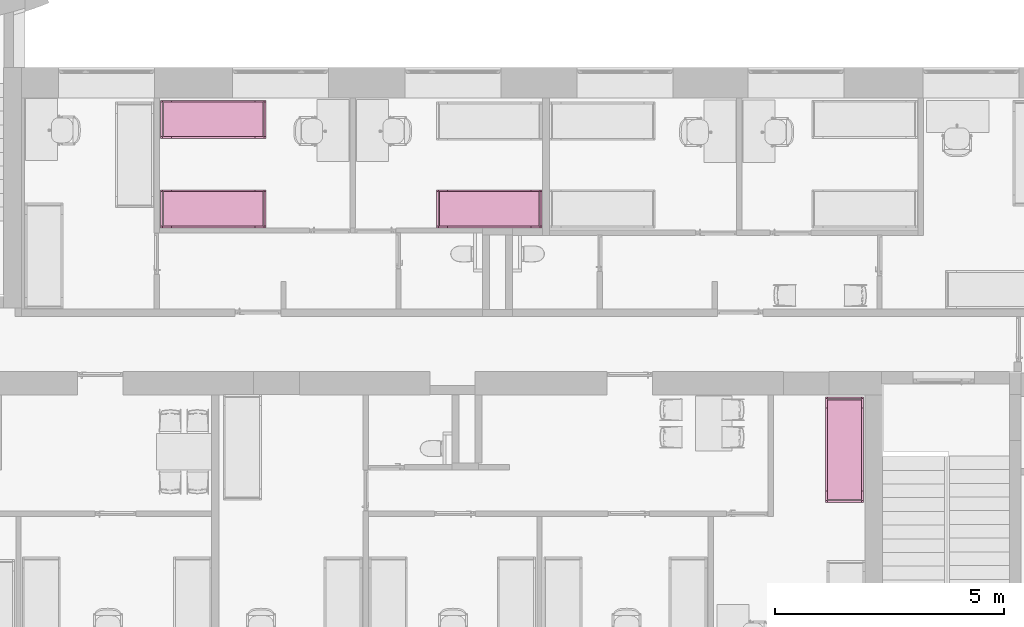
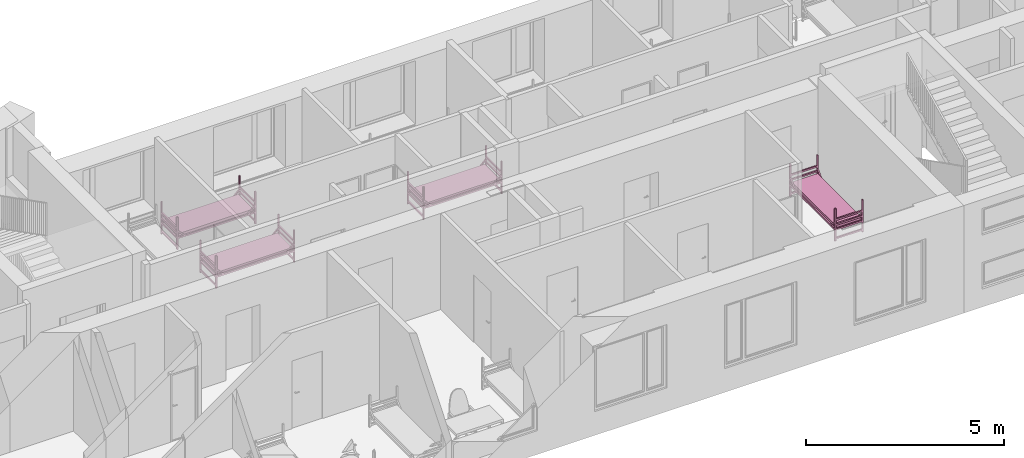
# One storey, part 37 of 48: 4 furnishings.
"""IFC2X3 building model written with IfcOpenShell, lengths in millimetres."""

from ifc_helpers import new_model, entity, si_unit, converted_unit, derived_unit, direction, frame, frame_2d, origin, origin_2d_with_axis, place, context, subcontext, project, spatial, polyline, circle_curve, parameter, trimmed, segment, composite_curve, rectangle, outline, extrude, source, transform, mapped, material, type_object, type_shapes, element, save


model = new_model("IFC2X3")

# Units and contexts
model_context = context("Model", 3, precision=0.01, world=origin(), true_north=direction((6.12303176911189e-17, 1.0)))
body_context = subcontext(model_context, "Body", "Model", "MODEL_VIEW")
ifc_project = project(units=[si_unit("LENGTHUNIT", "METRE", prefix="MILLI"), si_unit("AREAUNIT", "SQUARE_METRE"), si_unit("VOLUMEUNIT", "CUBIC_METRE"), converted_unit("PLANEANGLEUNIT", "DEGREE", entity("IfcRatioMeasure", 0.0174532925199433), si_unit("PLANEANGLEUNIT", "RADIAN"), dimensions=[0, 0, 0, 0, 0, 0, 0]), si_unit("MASSUNIT", "GRAM", prefix="KILO"), derived_unit("MASSDENSITYUNIT", [(si_unit("MASSUNIT", "GRAM", prefix="KILO"), 1), (si_unit("LENGTHUNIT", "METRE"), -3)]), si_unit("TIMEUNIT", "SECOND"), si_unit("FREQUENCYUNIT", "HERTZ"), si_unit("THERMODYNAMICTEMPERATUREUNIT", "DEGREE_CELSIUS"), derived_unit("THERMALTRANSMITTANCEUNIT", [(si_unit("MASSUNIT", "GRAM", prefix="KILO"), 1), (si_unit("THERMODYNAMICTEMPERATUREUNIT", "KELVIN"), -1), (si_unit("TIMEUNIT", "SECOND"), -3)]), derived_unit("VOLUMETRICFLOWRATEUNIT", [(si_unit("LENGTHUNIT", "METRE"), 3), (si_unit("TIMEUNIT", "SECOND"), -1)]), si_unit("ELECTRICCURRENTUNIT", "AMPERE"), si_unit("ELECTRICVOLTAGEUNIT", "VOLT"), si_unit("POWERUNIT", "WATT"), si_unit("FORCEUNIT", "NEWTON", prefix="KILO"), si_unit("ILLUMINANCEUNIT", "LUX"), si_unit("LUMINOUSFLUXUNIT", "LUMEN"), si_unit("LUMINOUSINTENSITYUNIT", "CANDELA"), derived_unit("USERDEFINED", [(si_unit("MASSUNIT", "GRAM", prefix="KILO"), -1), (si_unit("LENGTHUNIT", "METRE"), -2), (si_unit("TIMEUNIT", "SECOND"), 3), (si_unit("LUMINOUSFLUXUNIT", "LUMEN"), 1)]), derived_unit("LINEARVELOCITYUNIT", [(si_unit("LENGTHUNIT", "METRE"), 1), (si_unit("TIMEUNIT", "SECOND"), -1)]), si_unit("PRESSUREUNIT", "PASCAL"), derived_unit("USERDEFINED", [(si_unit("LENGTHUNIT", "METRE"), -2), (si_unit("MASSUNIT", "GRAM", prefix="KILO"), 1), (si_unit("TIMEUNIT", "SECOND"), -2)]), derived_unit("LINEARFORCEUNIT", [(si_unit("MASSUNIT", "GRAM", prefix="KILO"), 1), (si_unit("LENGTHUNIT", "METRE"), 1), (si_unit("TIMEUNIT", "SECOND"), -2), (si_unit("LENGTHUNIT", "METRE"), -1)]), derived_unit("PLANARFORCEUNIT", [(si_unit("MASSUNIT", "GRAM", prefix="KILO"), 1), (si_unit("LENGTHUNIT", "METRE"), 1), (si_unit("TIMEUNIT", "SECOND"), -2), (si_unit("LENGTHUNIT", "METRE"), -2)])], contexts=[model_context])

# Site, building, storey, space
site_placement = place(None, origin())
site = spatial("IfcSite", under=ifc_project, at=site_placement, Name="Default", CompositionType="ELEMENT")
building_placement = place(site_placement, origin())
building = spatial("IfcBuilding", under=site, at=building_placement, Name="SMA ARH", CompositionType="ELEMENT")
storey_placement = place(building_placement, frame((0.0, 0.0, 6600.0)))
storey = spatial("IfcBuildingStorey", under=building, at=storey_placement, Name="3 Korrus", CompositionType="ELEMENT", Elevation=6599.99999999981)
space_1_placement = place(storey_placement, origin())
space_1 = spatial("IfcSpace", under=storey, at=space_1_placement, Name="3-24", CompositionType="ELEMENT", InteriorOrExteriorSpace="INTERNAL")

# Furnishing
ifc_material = material(Name="Madrats")
furniture_type_1 = type_object("IfcFurnitureType", Name="Kasarmu voodi ühekordne 2308x830:Kasarmu voodi ühekordne 2308x830", material=ifc_material)
shared_shape_1 = source(origin(), body_context, "Body", "SweptSolid", [
    extrude(rectangle(XDim=39.9999999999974, YDim=750.000000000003, at=frame_2d((-1.35003119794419e-13, -2.8421709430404e-14), x_axis=(1.0, 0.0))), frame((1.68638457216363, -1226.7969571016, 55.0), z_axis=(0.0, 0.0, 1.0), x_axis=(0.0, -1.0, 0.0)), (0.0, 0.0, 1.0), 49.9999999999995),
    extrude(rectangle(XDim=39.9999999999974, YDim=750.000000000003, at=frame_2d((-1.35003119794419e-13, -2.8421709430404e-14), x_axis=(1.0, 0.0))), frame((1.68638457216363, -1226.7969571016, 325.0), z_axis=(0.0, 0.0, 1.0), x_axis=(0.0, -1.0, 0.0)), (0.0, 0.0, 1.0), 49.9999999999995),
    extrude(rectangle(XDim=39.9999999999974, YDim=750.000000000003, at=frame_2d((-1.35003119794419e-13, -2.8421709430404e-14), x_axis=(1.0, 0.0))), frame((1.68638457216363, -1226.7969571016, 475.0), z_axis=(0.0, 0.0, 1.0), x_axis=(0.0, -1.0, 0.0)), (0.0, 0.0, 1.0), 49.9999999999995),
    extrude(rectangle(XDim=39.9999999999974, YDim=750.000000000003, at=frame_2d((-1.35003119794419e-13, -2.8421709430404e-14), x_axis=(1.0, 0.0))), frame((1.68638457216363, -1226.7969571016, 625.0), z_axis=(0.0, 0.0, 1.0), x_axis=(0.0, -1.0, 0.0)), (0.0, 0.0, 1.0), 50.0000000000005),
    extrude(rectangle(XDim=39.9999999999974, YDim=750.000000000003, at=frame_2d((1.35003119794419e-13, -2.8421709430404e-14), x_axis=(1.0, 0.0))), frame((1.68638457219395, 1041.2030428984, 55.0), z_axis=(0.0, 0.0, 1.0), x_axis=(0.0, -1.0, 0.0)), (0.0, 0.0, 1.0), 50.0000000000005),
    extrude(rectangle(XDim=39.9999999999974, YDim=750.000000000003, at=frame_2d((1.35003119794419e-13, -2.8421709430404e-14), x_axis=(1.0, 0.0))), frame((1.68638457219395, 1041.2030428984, 325.0), z_axis=(0.0, 0.0, 1.0), x_axis=(0.0, -1.0, 0.0)), (0.0, 0.0, 1.0), 50.0000000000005),
    extrude(rectangle(XDim=39.9999999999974, YDim=750.000000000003, at=frame_2d((1.35003119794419e-13, -2.8421709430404e-14), x_axis=(1.0, 0.0))), frame((1.68638457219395, 1041.2030428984, 475.0), z_axis=(0.0, 0.0, 1.0), x_axis=(0.0, -1.0, 0.0)), (0.0, 0.0, 1.0), 50.0000000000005),
    extrude(rectangle(XDim=39.9999999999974, YDim=750.000000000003, at=frame_2d((1.35003119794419e-13, -2.8421709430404e-14), x_axis=(1.0, 0.0))), frame((1.68638457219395, 1041.2030428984, 625.0), z_axis=(0.0, 0.0, 1.0), x_axis=(0.0, -1.0, 0.0)), (0.0, 0.0, 1.0), 49.9999999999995),
    extrude(outline(composite_curve([segment(trimmed(circle_curve(frame_2d((1085.0, -40.0), x_axis=(1.0, 0.0)), 10.0), [parameter(270.0)], [parameter(0.0)], True, "PARAMETER"), True, "CONTINUOUS"), segment(polyline([(1095.0, -40.0), (1095.0, 40.0)]), True, "CONTINUOUS"), segment(trimmed(circle_curve(frame_2d((1085.0, 40.0), x_axis=(1.0, 0.0)), 10.0), [parameter(0.0)], [parameter(90.0000000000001)], True, "PARAMETER"), True, "CONTINUOUS"), segment(polyline([(1085.0, 50.0), (-1085.0, 50.0)]), True, "CONTINUOUS"), segment(trimmed(circle_curve(frame_2d((-1085.0, 40.0), x_axis=(1.0, 0.0)), 10.0), [parameter(90.0000000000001)], [parameter(180.0)], True, "PARAMETER"), True, "CONTINUOUS"), segment(polyline([(-1095.0, 40.0), (-1095.0, -40.0)]), True, "CONTINUOUS"), segment(trimmed(circle_curve(frame_2d((-1085.0, -40.0), x_axis=(1.0, 0.0)), 10.0), [parameter(180.0)], [parameter(270.0)], True, "PARAMETER"), True, "CONTINUOUS"), segment(polyline([(-1085.0, -50.0), (1085.0, -50.0)]), True, "CONTINUOUS")], self_intersect=False)), frame((-373.313615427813, -92.7969571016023, 405.0), z_axis=(1.0, 0.0, 0.0), x_axis=(0.0, -1.0, 0.0)), (0.0, 0.0, 1.0), 750.000000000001),
    extrude(outline(polyline([(-1114.0, -100.0), (1114.0, -100.0), (1114.0, -50.0), (961.59199141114, -50.0), (1114.0, 100.0), (1114.0, 150.0), (910.789321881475, -50.0), (-910.789321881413, -50.0), (-1114.0, 150.0), (-1114.0, 100.0), (-961.591991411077, -50.0), (-1114.0, -50.0), (-1114.0, -100.0)])), frame((-413.313615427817, -92.7969571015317, 430.0), z_axis=(1.0, 0.0, 0.0), x_axis=(0.0, 1.0, 0.0)), (0.0, 0.0, 1.0), 39.9999999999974),
    extrude(outline(polyline([(-1114.0, -100.0), (1114.0, -100.0), (1114.0, -50.0), (961.591991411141, -50.0), (1114.0, 100.0), (1114.0, 150.0), (910.789321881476, -50.0), (-910.789321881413, -50.0), (-1114.0, 150.0), (-1114.0, 100.0), (-961.591991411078, -50.0), (-1114.0, -50.0), (-1114.0, -100.0)])), frame((376.686384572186, -92.796957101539, 430.0), z_axis=(1.0, 0.0, 0.0), x_axis=(0.0, 1.0, 0.0)), (0.0, 0.0, 1.0), 39.9999999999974),
    extrude(rectangle(XDim=39.9999999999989, YDim=39.9999999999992, at=frame_2d((-6.75015598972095e-14, 0.0), x_axis=(1.0, 0.0))), frame((396.686384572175, -1226.79695710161, 0.0), z_axis=(0.0, 0.0, 1.0), x_axis=(0.0, 1.0, 0.0)), (0.0, 0.0, 1.0), 995.0),
    extrude(rectangle(XDim=39.9999999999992, YDim=39.9999999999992, at=frame_2d((-1.35003119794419e-13, 0.0), x_axis=(1.0, 0.0))), frame((396.686384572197, 1041.20304289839, 0.0), z_axis=(0.0, 0.0, 1.0), x_axis=(0.0, 1.0, 0.0)), (0.0, 0.0, 1.0), 995.0),
    extrude(rectangle(XDim=40.0000000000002, YDim=39.9999999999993, at=frame_2d((-1.35003119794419e-13, 0.0), x_axis=(1.0, 0.0))), frame((-393.313615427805, 1041.2030428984, 0.0), z_axis=(0.0, 0.0, 1.0), x_axis=(0.0, 1.0, 0.0)), (0.0, 0.0, 1.0), 995.0),
    extrude(rectangle(XDim=39.9999999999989, YDim=39.9999999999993, at=frame_2d((-6.75015598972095e-14, 0.0), x_axis=(1.0, 0.0))), frame((-393.313615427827, -1226.7969571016, 0.0), z_axis=(0.0, 0.0, 1.0), x_axis=(0.0, 1.0, 0.0)), (0.0, 0.0, 1.0), 995.0),
])
type_shapes(furniture_type_1, [shared_shape_1])
furnishing_1_placement = place(space_1_placement, frame((22138.2030428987, 10071.3136154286, 0.0), z_axis=(0.0, 0.0, 1.0), x_axis=(0.0, 1.0, 0.0)))
element("IfcFurnishingElement", 1, at=furnishing_1_placement, inside=space_1, type_object=furniture_type_1, material=ifc_material, Name="Kasarmu voodi ühekordne 2308x830:Kasarmu voodi ühekordne 2308x830", ObjectType="Kasarmu voodi ühekordne 2308x830:Kasarmu voodi ühekordne 2308x830", context=body_context, shape_type="MappedRepresentation", body=[
    mapped(shared_shape_1, transform((0.0, 0.0, 0.0), scale=1.0)),
])

# Space
space_2_placement = place(storey_placement, origin())
space_2 = spatial("IfcSpace", under=storey, at=space_2_placement, Name="3-6", CompositionType="ELEMENT", InteriorOrExteriorSpace="INTERNAL")

# Furnishing
furniture_type_2 = type_object("IfcFurnitureType", Name="Kasarmu voodi ühekordne 2308x830:Kasarmu voodi ühekordne 2308x830", material=ifc_material)
shared_shape_2 = source(origin(), body_context, "Body", "SweptSolid", [
    extrude(rectangle(XDim=750.000000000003, YDim=39.9999999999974, at=frame_2d((0.0, 1.35003119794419e-13), x_axis=(1.0, 0.0))), frame((1.68638457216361, 1226.7969571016, 55.0)), (0.0, 0.0, 1.0), 49.9999999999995),
    extrude(rectangle(XDim=750.000000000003, YDim=39.9999999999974, at=frame_2d((0.0, 1.35003119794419e-13), x_axis=(1.0, 0.0))), frame((1.68638457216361, 1226.7969571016, 325.0)), (0.0, 0.0, 1.0), 49.9999999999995),
    extrude(rectangle(XDim=750.000000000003, YDim=39.9999999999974, at=frame_2d((0.0, 1.35003119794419e-13), x_axis=(1.0, 0.0))), frame((1.68638457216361, 1226.7969571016, 475.0)), (0.0, 0.0, 1.0), 49.9999999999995),
    extrude(rectangle(XDim=750.000000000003, YDim=39.9999999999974, at=frame_2d((0.0, 1.35003119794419e-13), x_axis=(1.0, 0.0))), frame((1.68638457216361, 1226.7969571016, 625.0)), (0.0, 0.0, 1.0), 50.0000000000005),
    extrude(rectangle(XDim=750.000000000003, YDim=39.9999999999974, at=origin_2d_with_axis()), frame((1.68638457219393, -1041.2030428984, 55.0)), (0.0, 0.0, 1.0), 50.0000000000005),
    extrude(rectangle(XDim=750.000000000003, YDim=39.9999999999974, at=origin_2d_with_axis()), frame((1.68638457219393, -1041.2030428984, 325.0)), (0.0, 0.0, 1.0), 50.0000000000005),
    extrude(rectangle(XDim=750.000000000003, YDim=39.9999999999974, at=origin_2d_with_axis()), frame((1.68638457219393, -1041.2030428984, 475.0)), (0.0, 0.0, 1.0), 50.0000000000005),
    extrude(rectangle(XDim=750.000000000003, YDim=39.9999999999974, at=origin_2d_with_axis()), frame((1.68638457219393, -1041.2030428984, 625.0)), (0.0, 0.0, 1.0), 49.9999999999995),
    extrude(outline(composite_curve([segment(polyline([(-1085.0, -50.0), (1085.0, -50.0)]), True, "CONTINUOUS"), segment(trimmed(circle_curve(frame_2d((1085.0, -40.0), x_axis=(-1.0, 0.0)), 10.0), [parameter(90.0000000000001)], [parameter(180.0)], True, "PARAMETER"), True, "CONTINUOUS"), segment(polyline([(1095.0, -40.0), (1095.0, 40.0)]), True, "CONTINUOUS"), segment(trimmed(circle_curve(frame_2d((1085.0, 40.0), x_axis=(-1.0, 0.0)), 10.0), [parameter(180.0)], [parameter(270.0)], True, "PARAMETER"), True, "CONTINUOUS"), segment(polyline([(1085.0, 50.0), (-1085.0, 50.0)]), True, "CONTINUOUS"), segment(trimmed(circle_curve(frame_2d((-1085.0, 40.0), x_axis=(-1.0, 0.0)), 10.0), [parameter(270.0)], [parameter(0.0)], True, "PARAMETER"), True, "CONTINUOUS"), segment(polyline([(-1095.0, 40.0), (-1095.0, -40.0)]), True, "CONTINUOUS"), segment(trimmed(circle_curve(frame_2d((-1085.0, -40.0), x_axis=(-1.0, 0.0)), 10.0), [parameter(0.0)], [parameter(90.0000000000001)], True, "PARAMETER"), True, "CONTINUOUS")], self_intersect=False)), frame((-373.313615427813, 92.7969571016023, 405.0), z_axis=(1.0, 0.0, 0.0), x_axis=(0.0, -1.0, 0.0)), (0.0, 0.0, 1.0), 750.000000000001),
    extrude(outline(polyline([(-100.0, -1114.0), (-50.0, -1114.0), (-50.0, -961.591991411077), (100.0, -1114.0), (150.0, -1114.0), (-50.0, -910.789321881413), (-50.0, 910.789321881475), (150.0, 1114.0), (100.0, 1114.0), (-50.0, 961.591991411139), (-50.0, 1114.0), (-100.0, 1114.0), (-100.0, -1114.0)])), frame((-413.313615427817, 92.7969571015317, 430.0), z_axis=(1.0, 0.0, 0.0), x_axis=(0.0, 0.0, 1.0)), (0.0, 0.0, 1.0), 39.9999999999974),
    extrude(outline(polyline([(-100.0, -1114.0), (-50.0, -1114.0), (-50.0, -961.591991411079), (100.0, -1114.0), (150.0, -1114.0), (-50.0, -910.789321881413), (-50.0, 910.789321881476), (150.0, 1114.0), (100.0, 1114.0), (-50.0, 961.591991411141), (-50.0, 1114.0), (-100.0, 1114.0), (-100.0, -1114.0)])), frame((376.686384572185, 92.796957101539, 430.0), z_axis=(1.0, 0.0, 0.0), x_axis=(0.0, 0.0, 1.0)), (0.0, 0.0, 1.0), 39.9999999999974),
    extrude(rectangle(XDim=39.9999999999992, YDim=39.9999999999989, at=frame_2d((0.0, -6.75015598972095e-14), x_axis=(1.0, 0.0))), frame((396.686384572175, 1226.79695710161, 0.0), z_axis=(0.0, 0.0, 1.0), x_axis=(-1.0, 0.0, 0.0)), (0.0, 0.0, 1.0), 995.0),
    extrude(rectangle(XDim=39.9999999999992, YDim=39.9999999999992, at=origin_2d_with_axis()), frame((396.686384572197, -1041.20304289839, 0.0), z_axis=(0.0, 0.0, 1.0), x_axis=(-1.0, 0.0, 0.0)), (0.0, 0.0, 1.0), 995.0),
    extrude(rectangle(XDim=39.9999999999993, YDim=40.0000000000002, at=origin_2d_with_axis()), frame((-393.313615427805, -1041.2030428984, 0.0), z_axis=(0.0, 0.0, 1.0), x_axis=(-1.0, 0.0, 0.0)), (0.0, 0.0, 1.0), 995.0),
    extrude(rectangle(XDim=39.9999999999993, YDim=39.9999999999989, at=frame_2d((0.0, -6.75015598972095e-14), x_axis=(1.0, 0.0))), frame((-393.313615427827, 1226.7969571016, 0.0), z_axis=(0.0, 0.0, 1.0), x_axis=(-1.0, 0.0, 0.0)), (0.0, 0.0, 1.0), 995.0),
])
type_shapes(furniture_type_2, [shared_shape_2])
furnishing_2_placement = place(space_2_placement, frame((30003.3136154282, 4900.0, 0.0), z_axis=(0.0, 0.0, 1.0), x_axis=(-1.0, 0.0, 0.0)))
element("IfcFurnishingElement", 2, at=furnishing_2_placement, inside=space_2, type_object=furniture_type_2, material=ifc_material, Name="Kasarmu voodi ühekordne 2308x830:Kasarmu voodi ühekordne 2308x830", ObjectType="Kasarmu voodi ühekordne 2308x830:Kasarmu voodi ühekordne 2308x830", context=body_context, shape_type="MappedRepresentation", body=[
    mapped(shared_shape_2, transform((0.0, 0.0, 0.0), scale=1.0)),
])

# Space
space_3_placement = place(storey_placement, origin())
space_3 = spatial("IfcSpace", under=storey, at=space_3_placement, Name="3-23", CompositionType="ELEMENT", InteriorOrExteriorSpace="INTERNAL")

# Furnishings
for number, where, z_axis, x_axis, name in (
    (3, (16286.796957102, 10071.3136154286, 0.0), (0.0, 0.0, 1.0), (0.0, 1.0, 0.0), "Kasarmu voodi ühekordne 2308x830:Kasarmu voodi ühekordne 2308x830"),
    (4, (16286.796957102, 12030.0, 0.0), (0.0, 0.0, 1.0), (0.0, 1.0, 0.0), "Kasarmu voodi ühekordne 2308x830:Kasarmu voodi ühekordne 2308x830"),
):
    element("IfcFurnishingElement", number, at=place(space_3_placement, frame(where, z_axis=z_axis, x_axis=x_axis)), inside=space_3, type_object=furniture_type_2, material=ifc_material, Name=name, ObjectType="Kasarmu voodi ühekordne 2308x830:Kasarmu voodi ühekordne 2308x830", context=body_context, shape_type="MappedRepresentation", body=[
        mapped(shared_shape_2, transform((0.0, 0.0, 0.0), scale=1.0)),
    ])

save(model, "model.ifc")
